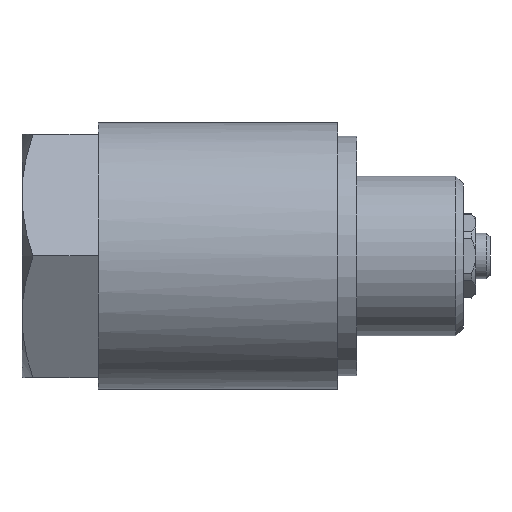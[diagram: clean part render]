
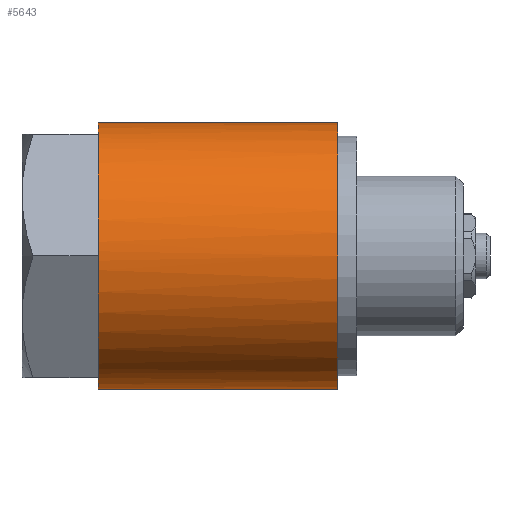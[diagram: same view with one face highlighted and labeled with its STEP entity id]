
A CAD part, front view. The second image highlights one B-rep face of the part: STEP entity #5643.
In plain terms, the highlighted cylindrical face has radius 17.5 mm (diameter 35 mm), a partial arc.
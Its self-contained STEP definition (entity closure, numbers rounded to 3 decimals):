
#131 = DIRECTION ( 'NONE',  ( -1., 0., 0. ) ) ;
#188 = VERTEX_POINT ( 'NONE', #604 ) ;
#268 = CIRCLE ( 'NONE', #1482, 17.5 ) ;
#293 = CIRCLE ( 'NONE', #1905, 17.5 ) ;
#344 = DIRECTION ( 'NONE',  ( 0., 0., 1. ) ) ;
#443 = CARTESIAN_POINT ( 'NONE',  ( 10., 0., 0. ) ) ;
#480 = VERTEX_POINT ( 'NONE', #2264 ) ;
#520 = VERTEX_POINT ( 'NONE', #4305 ) ;
#550 = AXIS2_PLACEMENT_3D ( 'NONE', #1520, #2049, #1018 ) ;
#564 = ORIENTED_EDGE ( 'NONE', *, *, #5373, .F. ) ;
#604 = CARTESIAN_POINT ( 'NONE',  ( 10., 0., -17.5 ) ) ;
#856 = DIRECTION ( 'NONE',  ( -1., 0., 0. ) ) ;
#857 = CARTESIAN_POINT ( 'NONE',  ( 10., 0., 0. ) ) ;
#879 = AXIS2_PLACEMENT_3D ( 'NONE', #443, #4031, #944 ) ;
#903 = DIRECTION ( 'NONE',  ( -1., 0., 0. ) ) ;
#919 = AXIS2_PLACEMENT_3D ( 'NONE', #2394, #5825, #2911 ) ;
#940 = DIRECTION ( 'NONE',  ( 0., 0., 1. ) ) ;
#944 = DIRECTION ( 'NONE',  ( 0., 0., 1. ) ) ;
#960 = VERTEX_POINT ( 'NONE', #2528 ) ;
#1017 = EDGE_LOOP ( 'NONE', ( #5010, #5435, #3479, #5308, #1147, #4955, #564, #5197, #2415, #4025 ) ) ;
#1018 = DIRECTION ( 'NONE',  ( 0., 0., 1. ) ) ;
#1092 = CARTESIAN_POINT ( 'NONE',  ( 10., 0., -17.5 ) ) ;
#1142 = DIRECTION ( 'NONE',  ( -1., 0., 0. ) ) ;
#1147 = ORIENTED_EDGE ( 'NONE', *, *, #4870, .F. ) ;
#1298 = AXIS2_PLACEMENT_3D ( 'NONE', #1368, #856, #344 ) ;
#1353 = AXIS2_PLACEMENT_3D ( 'NONE', #5566, #5341, #5318 ) ;
#1366 = AXIS2_PLACEMENT_3D ( 'NONE', #1554, #1142, #4193 ) ;
#1368 = CARTESIAN_POINT ( 'NONE',  ( 10., 0., 0. ) ) ;
#1398 = AXIS2_PLACEMENT_3D ( 'NONE', #4383, #1519, #6193 ) ;
#1482 = AXIS2_PLACEMENT_3D ( 'NONE', #2904, #4439, #3433 ) ;
#1519 = DIRECTION ( 'NONE',  ( -1., 0., 0. ) ) ;
#1520 = CARTESIAN_POINT ( 'NONE',  ( 10., 0., 0. ) ) ;
#1554 = CARTESIAN_POINT ( 'NONE',  ( 10., 0., 0. ) ) ;
#1616 = CIRCLE ( 'NONE', #1353, 17.5 ) ;
#1648 = VECTOR ( 'NONE', #131, 1000. ) ;
#1905 = AXIS2_PLACEMENT_3D ( 'NONE', #857, #903, #940 ) ;
#2049 = DIRECTION ( 'NONE',  ( -1., 0., 0. ) ) ;
#2264 = CARTESIAN_POINT ( 'NONE',  ( 10., -17.401, -1.861 ) ) ;
#2394 = CARTESIAN_POINT ( 'NONE',  ( 10., 0., 0. ) ) ;
#2415 = ORIENTED_EDGE ( 'NONE', *, *, #4962, .F. ) ;
#2439 = VERTEX_POINT ( 'NONE', #4455 ) ;
#2519 = VECTOR ( 'NONE', #6081, 1000. ) ;
#2528 = CARTESIAN_POINT ( 'NONE',  ( 41.5, 0., -17.5 ) ) ;
#2904 = CARTESIAN_POINT ( 'NONE',  ( 10., 0., 0. ) ) ;
#2911 = DIRECTION ( 'NONE',  ( 0., 0., 1. ) ) ;
#2931 = VERTEX_POINT ( 'NONE', #4013 ) ;
#3020 = LINE ( 'NONE', #1092, #1648 ) ;
#3325 = CIRCLE ( 'NONE', #1398, 17.5 ) ;
#3433 = DIRECTION ( 'NONE',  ( 0., 0., 1. ) ) ;
#3479 = ORIENTED_EDGE ( 'NONE', *, *, #4624, .T. ) ;
#3656 = CARTESIAN_POINT ( 'NONE',  ( 10., 0., 17.5 ) ) ;
#3791 = VERTEX_POINT ( 'NONE', #4155 ) ;
#3890 = LINE ( 'NONE', #4785, #2519 ) ;
#4013 = CARTESIAN_POINT ( 'NONE',  ( 10., -17.401, 1.861 ) ) ;
#4025 = ORIENTED_EDGE ( 'NONE', *, *, #4375, .F. ) ;
#4031 = DIRECTION ( 'NONE',  ( -1., 0., 0. ) ) ;
#4123 = FACE_OUTER_BOUND ( 'NONE', #1017, .T. ) ;
#4155 = CARTESIAN_POINT ( 'NONE',  ( 41.5, 0., 17.5 ) ) ;
#4193 = DIRECTION ( 'NONE',  ( 0., 0., 1. ) ) ;
#4305 = CARTESIAN_POINT ( 'NONE',  ( 10., -7.089, -16. ) ) ;
#4351 = EDGE_CURVE ( 'NONE', #960, #188, #3020, .T. ) ;
#4375 = EDGE_CURVE ( 'NONE', #188, #520, #293, .T. ) ;
#4383 = CARTESIAN_POINT ( 'NONE',  ( 10., 0., 0. ) ) ;
#4439 = DIRECTION ( 'NONE',  ( -1., 0., 0. ) ) ;
#4455 = CARTESIAN_POINT ( 'NONE',  ( 10., -10.312, 14.139 ) ) ;
#4500 = CIRCLE ( 'NONE', #1366, 17.5 ) ;
#4570 = VERTEX_POINT ( 'NONE', #6218 ) ;
#4624 = EDGE_CURVE ( 'NONE', #3791, #5013, #3890, .T. ) ;
#4687 = VERTEX_POINT ( 'NONE', #5653 ) ;
#4718 = EDGE_CURVE ( 'NONE', #4570, #5013, #268, .T. ) ;
#4722 = CIRCLE ( 'NONE', #1298, 17.5 ) ;
#4785 = CARTESIAN_POINT ( 'NONE',  ( 10., 0., 17.5 ) ) ;
#4830 = CYLINDRICAL_SURFACE ( 'NONE', #550, 17.5 ) ;
#4870 = EDGE_CURVE ( 'NONE', #2439, #4570, #3325, .T. ) ;
#4913 = EDGE_CURVE ( 'NONE', #2931, #2439, #4500, .T. ) ;
#4923 = EDGE_CURVE ( 'NONE', #960, #3791, #1616, .T. ) ;
#4955 = ORIENTED_EDGE ( 'NONE', *, *, #4913, .F. ) ;
#4962 = EDGE_CURVE ( 'NONE', #520, #4687, #4722, .T. ) ;
#5010 = ORIENTED_EDGE ( 'NONE', *, *, #4351, .F. ) ;
#5013 = VERTEX_POINT ( 'NONE', #3656 ) ;
#5197 = ORIENTED_EDGE ( 'NONE', *, *, #5322, .F. ) ;
#5308 = ORIENTED_EDGE ( 'NONE', *, *, #4718, .F. ) ;
#5318 = DIRECTION ( 'NONE',  ( 0., 0., 1. ) ) ;
#5322 = EDGE_CURVE ( 'NONE', #4687, #480, #6171, .T. ) ;
#5341 = DIRECTION ( 'NONE',  ( -1., 0., 0. ) ) ;
#5373 = EDGE_CURVE ( 'NONE', #480, #2931, #5950, .T. ) ;
#5435 = ORIENTED_EDGE ( 'NONE', *, *, #4923, .T. ) ;
#5566 = CARTESIAN_POINT ( 'NONE',  ( 41.5, 0., 0. ) ) ;
#5643 = ADVANCED_FACE ( 'NONE', ( #4123 ), #4830, .T. ) ;
#5653 = CARTESIAN_POINT ( 'NONE',  ( 10., -10.312, -14.139 ) ) ;
#5825 = DIRECTION ( 'NONE',  ( -1., 0., 0. ) ) ;
#5950 = CIRCLE ( 'NONE', #879, 17.5 ) ;
#6081 = DIRECTION ( 'NONE',  ( -1., 0., 0. ) ) ;
#6171 = CIRCLE ( 'NONE', #919, 17.5 ) ;
#6193 = DIRECTION ( 'NONE',  ( 0., 0., 1. ) ) ;
#6218 = CARTESIAN_POINT ( 'NONE',  ( 10., -7.089, 16. ) ) ;
